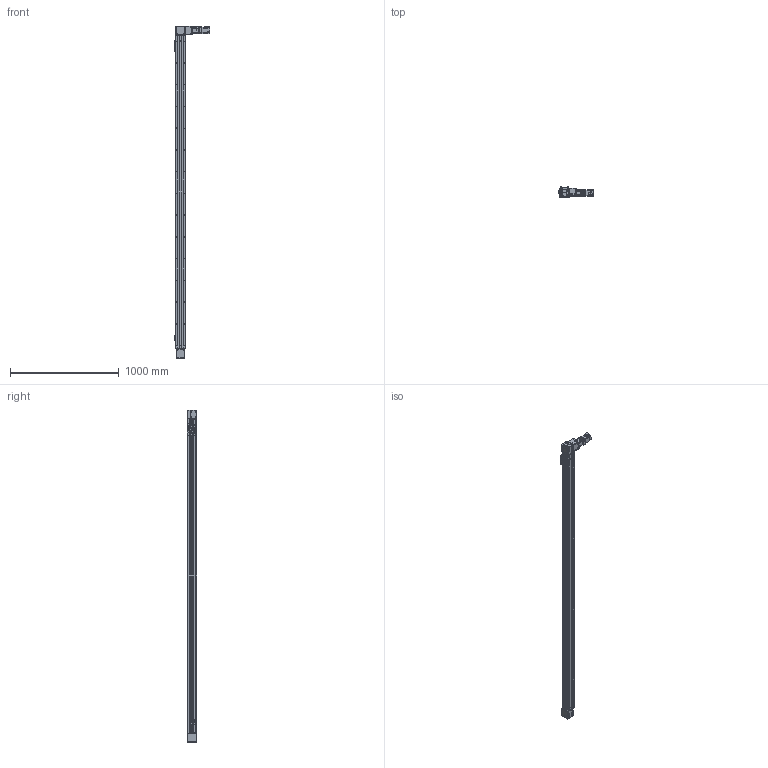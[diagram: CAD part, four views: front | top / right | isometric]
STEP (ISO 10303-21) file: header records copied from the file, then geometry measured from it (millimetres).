
FILE_DESCRIPTION(/* description */ ('MANUFACTURE'),/* implementation_level */ '2;1');
FILE_NAME(/* name */ '\\192.168.0.160\disk1\HAN SHIN Master\B-설계부문\C-표준\B-2024년\BC02-표준도면\+로봇 개선표준도면\홈페이지 표준 도면\홈페이지 최종 작업 폴더\3D\HSB\HSB75\SR\HSB75-SR2G-N-2700-L.stp',/* time_stamp */ '2025-04-29T19:08:18+09:00',/* author */ ('user'),/* organization */ (''),/* preprocessor_version */ 'ST-DEVELOPER v18.1',/* originating_system */ 'Autodesk Inventor 2022',/* authorisation */ 'LIP');
FILE_SCHEMA (('CONFIG_CONTROL_DESIGN'));
Products named in the file (35): HSB75-SR2G-N-0500-L; HSB75 BASE; HSB75 TABLE; HSB75 FRONT HOUSING (Connecting); HSB75 FRONT COVER; UPCOVER; HS75 SIDE COVER; HSB75 REAR HOUSING; HSB75 REAR PULLEY; HSB55 REAR SHAFT; HSB55 TENSION PLATE; 6002ZZ; 6002ZZ Outer ring; 6002ZZ Shield1; 6002ZZ Inner ring; 6002ZZ Ball; 6002ZZ Shield2; HG90STOPPER - 27L; HSB55 ACRYL COVER; HSB75 ACRYL COVER-END; HSB75 END COVER; SDWA-39C; HSB160 BEARING OVER; HSB55 MOTOR BKT 01; HSB55 MOTOR BKT 02; PGX62-H-1_3; COUPLING COVER; hg-kr23_; HSB160 SHAFT-1; C-E6304ZZ; HS75 SENSOR DOG-1; NIPPLE CAP(신규); hsr_ftht_A-M6F_grease_nipple_joint; SENSOR BRK(EE-SX674A); EE_SX674A
Assembly tree (60 placements, depth 3):
  HSB75-SR2G-N-0500-L
    HSB75 BASE
    HSB75 TABLE
    HSB75 FRONT HOUSING (Connecting)
    HSB75 FRONT COVER  x2
    UPCOVER
    HS75 SIDE COVER  x2
    HSB75 REAR HOUSING
    HSB75 REAR PULLEY
    HSB55 REAR SHAFT
    HSB55 TENSION PLATE  x2
    6002ZZ  x2
      6002ZZ Outer ring
      6002ZZ Shield1
      6002ZZ Inner ring
      6002ZZ Ball
      6002ZZ Shield2
    HG90STOPPER - 27L  x2
    HSB55 ACRYL COVER  x3
    HSB75 ACRYL COVER-END
    HSB75 END COVER
    SDWA-39C
    HSB160 BEARING OVER
    HSB55 MOTOR BKT 01
    HSB55 MOTOR BKT 02
    PGX62-H-1_3
    COUPLING COVER
    hg-kr23_
    HSB160 SHAFT-1
    C-E6304ZZ  x2
    EE_SX674A  x3
    SENSOR BRK(EE-SX674A)  x3
    HS75 SENSOR DOG-1
    NIPPLE CAP(신규)  x2
    hsr_ftht_A-M6F_grease_nipple_joint  x2
Bounding box: 322.6 x 89 x 3054 mm (x, y, z)
Volume: 7893104.3 mm3; surface area: 3039477.8 mm2
Topology: 92 solids, 124 shells, 4612 faces, 12510 edges, 8180 vertices
Faces by surface type: plane 2926, cylinder 1146, cone 366, torus 113, sphere 42, bspline 19
Full cylindrical faces by diameter (mm): 2 x12, 2.013 x4, 2.459 x40, 3 x20, 3.242 x32, 3.3 x15, 3.5 x22, 4 x35, 4.134 x67, 4.2 x12, 4.343 x2, 4.4 x4, 4.5 x29, 4.917 x34, 5 x31, 5.5 x40, 5.6 x10, 5.8 x4, 5.9 x8, 6 x6, 6.5 x4, 7 x27, 7.4 x2, 7.9 x10, 8 x12, 8.5 x4, 9 x12, 9.5 x24, 12 x2, 14 x1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
Entity records: 119481 total; most frequent: CARTESIAN_POINT 24612, DIRECTION 19800, ORIENTED_EDGE 19216, EDGE_CURVE 9608, AXIS2_PLACEMENT_3D 6918, VERTEX_POINT 6337, LINE 5964, VECTOR 5964
